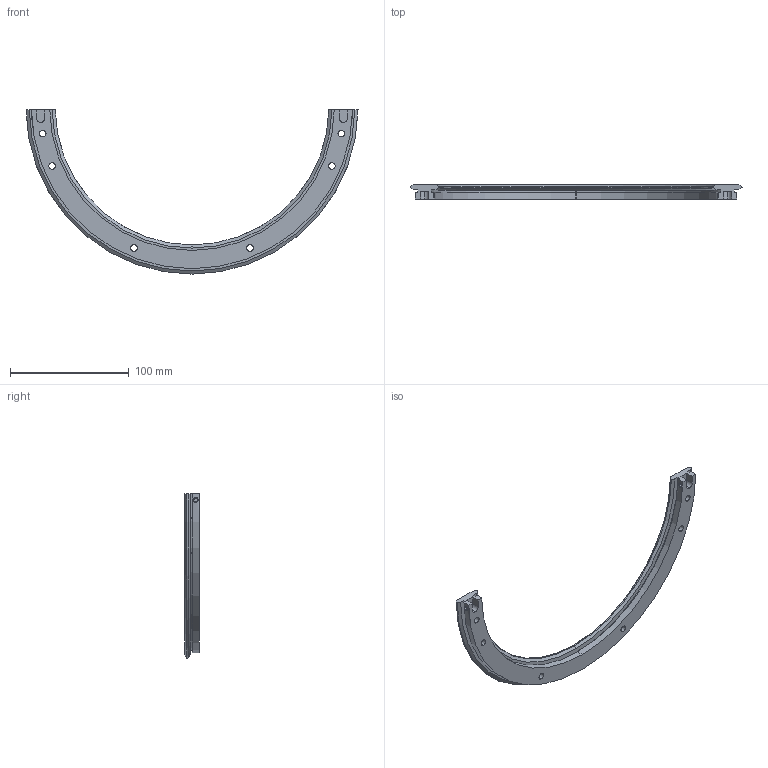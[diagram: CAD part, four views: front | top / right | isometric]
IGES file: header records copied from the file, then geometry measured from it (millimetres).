
Start section: 3D InterOp IGES (v. 2019 1.0.2), Spatial Corp. Copyright (c) 1999-2017.
Global section: file name: TR25 255 R180.igs; native system: Spatial Corp.; preprocessor: 3D InterOp GENERIC/IGES 3.0; author: Noname; organization: Noname; date: 20220628.092400; units: millimetre
Bounding box: 279.59 x 12.25 x 138.31 mm (x, y, z)
Surface area: 32482.2 mm2 (no closed solid volume)
Topology: 0 solids, 0 shells, 108 faces, 548 edges, 548 vertices
Faces by surface type: revolution 56, extrusion 52
